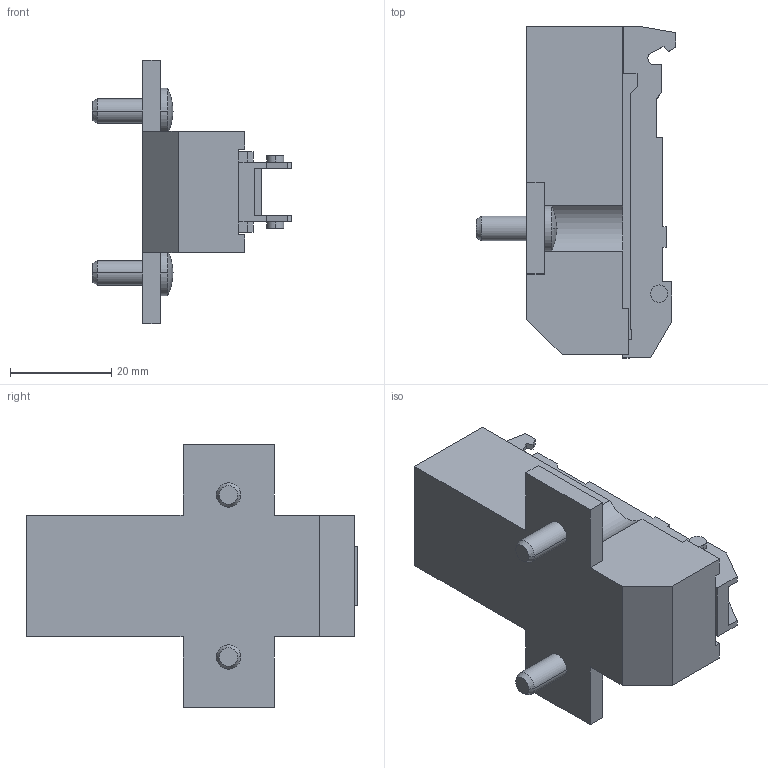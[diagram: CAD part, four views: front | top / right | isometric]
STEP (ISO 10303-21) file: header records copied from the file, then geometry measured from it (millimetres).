
FILE_DESCRIPTION (( 'STEP AP214' ), '1' );
FILE_NAME ('1D Kreuzmontageplatte 2Pkt. - Distanz 19mm.step', '2010-11-18T10:16:39', ( 'grass' ), ( '' ), 'SwSTEP 2.0', 'SolidWorks 2010', '' );
FILE_SCHEMA (( 'AUTOMOTIVE_DESIGN' ));
Length unit declared in the file: millimetre
Products named in the file (1): 1D Kreuzmontageplatte 2Pkt. - Distanz 19mm
Bounding box: 39.5 x 65.55 x 52 mm (x, y, z)
Volume: 34750.3 mm3; surface area: 10094.5 mm2
Topology: 1 solids, 1 shells, 115 faces, 317 edges, 210 vertices
Faces by surface type: plane 91, cylinder 16, cone 4, sphere 4
Entity records: 3657 total; most frequent: CARTESIAN_POINT 643, ORIENTED_EDGE 634, DIRECTION 593, EDGE_CURVE 317, LINE 273, VECTOR 273, VERTEX_POINT 210, AXIS2_PLACEMENT_3D 160
